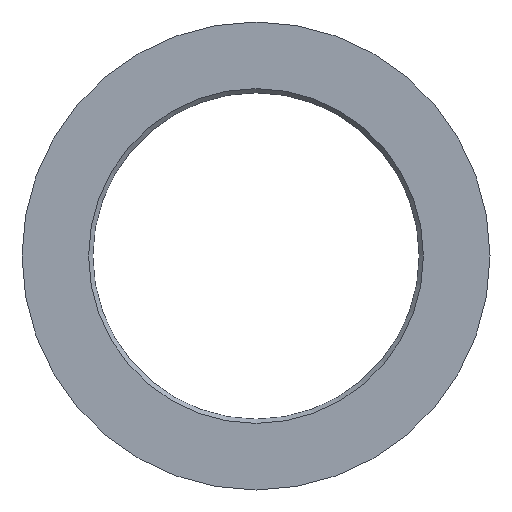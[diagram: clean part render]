
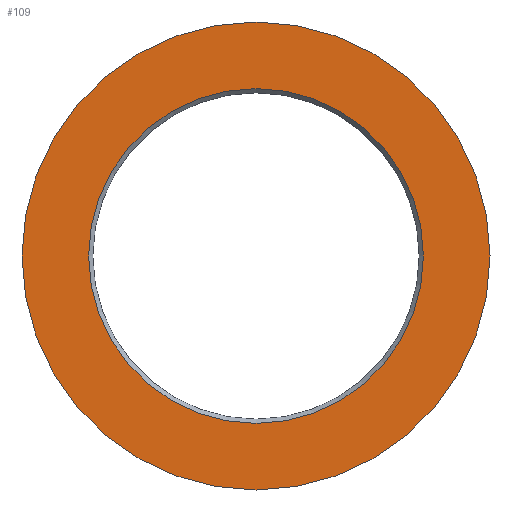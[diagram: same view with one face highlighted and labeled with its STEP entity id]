
A CAD part, front view. The second image highlights one B-rep face of the part: STEP entity #109.
In plain terms, the highlighted planar face has unit normal (0, -1, 0).
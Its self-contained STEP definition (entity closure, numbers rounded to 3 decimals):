
#16=FACE_BOUND('',#34,.T.);
#18=PLANE('',#144);
#25=FACE_OUTER_BOUND('',#33,.T.);
#33=EDGE_LOOP('',(#90));
#34=EDGE_LOOP('',(#91));
#51=CIRCLE('',#143,40.05);
#52=CIRCLE('',#145,56.);
#59=VERTEX_POINT('',#202);
#60=VERTEX_POINT('',#206);
#70=EDGE_CURVE('',#59,#59,#51,.T.);
#71=EDGE_CURVE('',#60,#60,#52,.T.);
#90=ORIENTED_EDGE('',*,*,#71,.F.);
#91=ORIENTED_EDGE('',*,*,#70,.F.);
#109=ADVANCED_FACE('',(#25,#16),#18,.F.);
#143=AXIS2_PLACEMENT_3D('',#204,#171,#172);
#144=AXIS2_PLACEMENT_3D('',#205,#173,#174);
#145=AXIS2_PLACEMENT_3D('',#207,#175,#176);
#171=DIRECTION('center_axis',(0.,-1.,0.));
#172=DIRECTION('ref_axis',(1.,0.,0.));
#173=DIRECTION('center_axis',(0.,1.,0.));
#174=DIRECTION('ref_axis',(0.,0.,1.));
#175=DIRECTION('center_axis',(0.,1.,0.));
#176=DIRECTION('ref_axis',(-1.,0.,0.));
#202=CARTESIAN_POINT('',(-40.05,0.,0.));
#204=CARTESIAN_POINT('Origin',(0.,0.,0.));
#205=CARTESIAN_POINT('Origin',(0.,0.,0.));
#206=CARTESIAN_POINT('',(-56.,0.,0.));
#207=CARTESIAN_POINT('Origin',(0.,0.,0.));
